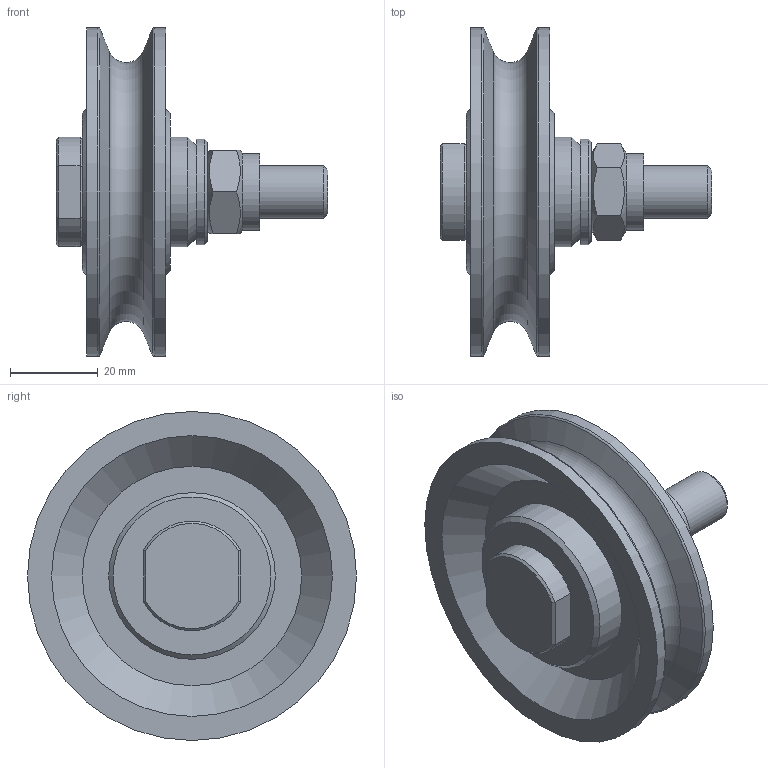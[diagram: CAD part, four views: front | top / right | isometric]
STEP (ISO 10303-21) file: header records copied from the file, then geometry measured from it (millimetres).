
FILE_DESCRIPTION(/* description */ ('Seilrolle ø75 feststehende Achse VA'),/* implementation_level */ '2;1');
FILE_NAME(/* name */ 'Z:\Workspace\03 Seilrollen\1.506 Seilrollen feststehende Achse Gleitlager\1.506.02 Seilrolle ø75 feststehende Achse GL VA\1.506.02 Seilrolle ø75 feststehende Achse VA.stp',/* time_stamp */ '2021-11-02T12:13:18+01:00',/* author */ ('cad-user'),/* organization */ (''),/* preprocessor_version */ 'ST-DEVELOPER v18',/* originating_system */ 'Autodesk Inventor 2020',/* authorisation */ '');
FILE_SCHEMA (('AUTOMOTIVE_DESIGN { 1 0 10303 214 3 1 1 }'));
Length unit declared in the file: millimetre
Products named in the file (8): 1.506.02 Seilrolle ø75 feststehende Achse VA; 1.501.02 Seilrolle ø75 VA Buchse komplett; 1.501.02 Seilrolle ø75 VA Buchse; 121520BP25; 1.506.02.01 Schraube VA; 1.506.02.02 Scheibe VA; DIN 125-1 - B 13; DIN 985 - M12
Assembly tree (7 placements, depth 3):
  1.506.02 Seilrolle ø75 feststehende Achse VA
    1.501.02 Seilrolle ø75 VA Buchse komplett
      1.501.02 Seilrolle ø75 VA Buchse
      121520BP25
    1.506.02.01 Schraube VA
    1.506.02.02 Scheibe VA
    DIN 125-1 - B 13
    DIN 985 - M12
Bounding box: 62 x 75 x 75 mm (x, y, z)
Volume: 59851.5 mm3; surface area: 26847.2 mm2
Topology: 6 solids, 6 shells, 69 faces, 163 edges, 111 vertices
Faces by surface type: plane 29, cone 21, cylinder 16, torus 3
Full cylindrical faces by diameter (mm): 2.459 x1, 12 x2, 13 x2, 15 x2, 17.4 x1, 24 x1, 25 x1, 38 x2, 75 x2
Entity records: 2392 total; most frequent: CARTESIAN_POINT 406, DIRECTION 405, ORIENTED_EDGE 326, AXIS2_PLACEMENT_3D 178, EDGE_CURVE 163, VERTEX_POINT 111, CIRCLE 94, EDGE_LOOP 84
